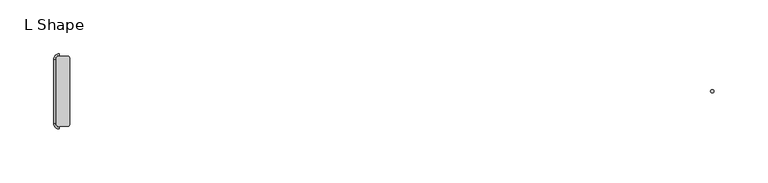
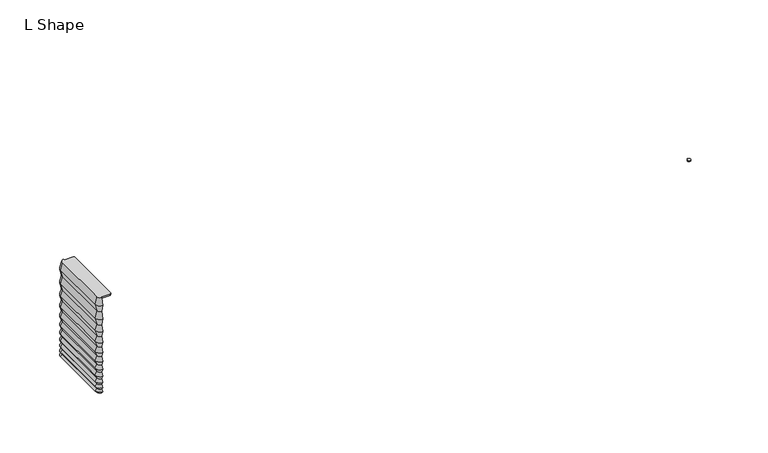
"""IFC4 building model written with IfcOpenShell, lengths in millimetres: light fixture geometry, Lighting-Ceiling-Betacalco-Bellows-L_Shape : L Shape."""

from ifc_helpers import new_model, si_unit, point, frame, frame_2d, origin, place, context, project, spatial, polyline, circle_curve, trimmed, segment, composite_curve, outline, extrude, source, transform, mapped, element, save
from ifc_brep_helpers import plane_surface, revolved_surface, advanced_brep


def l_shape_feb75dd8(model_context):
    return source(origin(), model_context, "Body", "SolidModel", [
        advanced_brep(
        [(-304.8, 35.1474913, 2.032), (-304.8, 33.3694913, 4.064), (-304.8, 35.1474913, 6.604), (-304.8, 33.3694913, 9.144), (-304.8, 35.1474913, 12.192), (-304.8, 33.3694913, 15.24), (-304.8, 35.1474913, 18.796), (-304.8, 33.3694913, 22.352), (-304.8, 35.1474913, 26.162), (-304.8, 33.3694913, 29.972), (-304.8, 35.11885, 34.4703509), (-304.8, 33.3966915, 39.0460566), (-304.8, 35.1239968, 44.1288728), (-304.8, 33.3919128, 49.2119386), (-304.8, 35.1278878, 54.802389), (-304.8, 33.3882749, 60.3929656), (-304.8, 35.1308966, 66.491104), (-304.8, 33.3848944, 72.5911894), (-304.8, 35.1351705, 79.7067168), (-304.8, 33.3815995, 86.8195673), (-304.8, 35.1359826, 94.186321), (-304.8, 33.3694913, 101.6), (-304.8, 32.6229178, 101.6), (-304.8, 32.6229178, 100.2332722), (-304.8, -32.6229178, 100.2332722), (-304.8, -32.6229178, 101.6), (-304.8, -33.3694913, 101.6), (-304.8, -35.1359826, 94.186321), (-304.8, -33.3815995, 86.8195673), (-304.8, -35.1351705, 79.7067168), (-304.8, -33.3848944, 72.5911894), (-304.8, -35.1308966, 66.491104), (-304.8, -33.3882749, 60.3929656), (-304.8, -35.1278878, 54.802389), (-304.8, -33.3919128, 49.2119386), (-304.8, -35.1239968, 44.1288728), (-304.8, -33.3966915, 39.0460566), (-304.8, -35.11885, 34.4703509), (-304.8, -33.3694913, 29.972), (-304.8, -35.1474913, 26.162), (-304.8, -33.3694913, 22.352), (-304.8, -35.1474913, 18.796), (-304.8, -33.3694913, 15.24), (-304.8, -35.1474913, 12.192), (-304.8, -33.3694913, 9.144), (-304.8, -35.1474913, 6.604), (-304.8, -33.3694913, 4.064), (-304.8, -35.1474913, 2.032), (-304.8, -33.3694913, 0.0), (-304.8, 33.3694913, 0.0), (-308.213, 29.9564913, 0.0), (-309.991, 29.9564913, 2.032), (-308.213, -29.9564913, 0.0), (-308.213, 29.9564913, 101.6), (-308.213, -29.9564913, 101.6), (-295.9807007, -32.5154703, 101.6), (-294.8222216, -31.4000598, 101.6), (-294.8222216, 31.4000598, 101.6), (-295.9807007, 32.5154703, 101.6), (-309.9794913, 29.9564913, 94.186321), (-308.2251082, 29.9564913, 86.8195673), (-309.9786792, 29.9564913, 79.7067168), (-308.2284031, 29.9564913, 72.5911894), (-309.9744054, 29.9564913, 66.491104), (-308.2317837, 29.9564913, 60.3929656), (-309.9713965, 29.9564913, 54.802389), (-308.2354215, 29.9564913, 49.2119386), (-309.9675055, 29.9564913, 44.1288728), (-308.2402002, 29.9564913, 39.0460566), (-309.9623587, 29.9564913, 34.4703509), (-308.213, 29.9564913, 29.972), (-309.991, 29.9564913, 26.162), (-308.213, 29.9564913, 22.352), (-309.991, 29.9564913, 18.796), (-308.213, 29.9564913, 15.24), (-309.991, 29.9564913, 12.192), (-308.213, 29.9564913, 9.144), (-309.991, 29.9564913, 6.604), (-308.213, 29.9564913, 4.064), (-309.991, -29.9564913, 2.032), (-309.9794913, -29.9564913, 94.186321), (-308.2251082, -29.9564913, 86.8195673), (-309.9786792, -29.9564913, 79.7067168), (-308.2284031, -29.9564913, 72.5911894), (-309.9744054, -29.9564913, 66.491104), (-308.2317837, -29.9564913, 60.3929656), (-309.9713965, -29.9564913, 54.802389), (-308.2354215, -29.9564913, 49.2119386), (-309.9675055, -29.9564913, 44.1288728), (-308.2402002, -29.9564913, 39.0460566), (-309.9623587, -29.9564913, 34.4703509), (-308.213, -29.9564913, 29.972), (-309.991, -29.9564913, 26.162), (-308.213, -29.9564913, 22.352), (-309.991, -29.9564913, 18.796), (-308.213, -29.9564913, 15.24), (-309.991, -29.9564913, 12.192), (-308.213, -29.9564913, 9.144), (-309.991, -29.9564913, 6.604), (-308.213, -29.9564913, 4.064), (-294.8222216, -31.4000598, 100.2332722), (-295.9807007, -32.5154703, 100.2332722), (-295.9807007, 32.5154703, 100.2332722), (-294.8222216, 31.4000598, 100.2332722)],
        [
            (0, 1),
            (1, 2),
            (2, 3),
            (3, 4),
            (4, 5),
            (5, 6),
            (6, 7),
            (7, 8),
            (8, 9),
            (9, 10),
            (10, 11),
            (11, 12),
            (12, 13),
            (13, 14),
            (14, 15),
            (15, 16),
            (16, 17),
            (17, 18),
            (18, 19),
            (19, 20),
            (20, 21),
            (21, 22),
            (22, 23),
            (23, 24),
            (24, 25),
            (25, 26),
            (26, 27),
            (27, 28),
            (28, 29),
            (29, 30),
            (30, 31),
            (31, 32),
            (32, 33),
            (33, 34),
            (34, 35),
            (35, 36),
            (36, 37),
            (37, 38),
            (38, 39),
            (39, 40),
            (40, 41),
            (41, 42),
            (42, 43),
            (43, 44),
            (44, 45),
            (45, 46),
            (46, 47),
            (47, 48),
            (48, 49),
            (49, 0),
            (49, 50, circle_curve(frame((-304.8, 29.9564913, 0.0), z_axis=(0.0, 0.0, 1.0), x_axis=(0.0, 1.0, 0.0)), 3.413)),
            (50, 51),
            (51, 0, circle_curve(frame((-304.8, 29.9564913, 2.032), z_axis=(0.0, 0.0, -1.0), x_axis=(0.0, 1.0, 0.0)), 5.191)),
            (48, 52, circle_curve(frame((-304.8, -29.9564913, 0.0), z_axis=(0.0, 0.0, -1.0), x_axis=(-1.0, 0.0, 0.0)), 3.413)),
            (52, 50),
            (53, 54),
            (54, 26, circle_curve(frame((-304.8, -29.9564913, 101.6), z_axis=(0.0, 0.0, 1.0), x_axis=(-1.0, 0.0, 0.0)), 3.413)),
            (25, 55),
            (55, 56),
            (56, 57),
            (57, 58),
            (58, 22),
            (21, 53, circle_curve(frame((-304.8, 29.9564913, 101.6), z_axis=(0.0, 0.0, 1.0), x_axis=(0.0, 1.0, 0.0)), 3.413)),
            (20, 59, circle_curve(frame((-304.8, 29.9564913, 94.186321), z_axis=(0.0, 0.0, 1.0), x_axis=(0.0, 1.0, 0.0)), 5.1794913)),
            (59, 53),
            (19, 60, circle_curve(frame((-304.8, 29.9564913, 86.8195673), z_axis=(0.0, 0.0, 1.0), x_axis=(0.0, 1.0, 0.0)), 3.4251082)),
            (60, 59),
            (18, 61, circle_curve(frame((-304.8, 29.9564913, 79.7067168), z_axis=(0.0, 0.0, 1.0), x_axis=(0.0, 1.0, 0.0)), 5.1786792)),
            (61, 60),
            (17, 62, circle_curve(frame((-304.8, 29.9564913, 72.5911894), z_axis=(0.0, 0.0, 1.0), x_axis=(0.0, 1.0, 0.0)), 3.4284031)),
            (62, 61),
            (16, 63, circle_curve(frame((-304.8, 29.9564913, 66.491104), z_axis=(0.0, 0.0, 1.0), x_axis=(0.0, 1.0, 0.0)), 5.1744054)),
            (63, 62),
            (15, 64, circle_curve(frame((-304.8, 29.9564913, 60.3929656), z_axis=(0.0, 0.0, 1.0), x_axis=(0.0, 1.0, 0.0)), 3.4317837)),
            (64, 63),
            (14, 65, circle_curve(frame((-304.8, 29.9564913, 54.802389), z_axis=(0.0, 0.0, 1.0), x_axis=(0.0, 1.0, 0.0)), 5.1713965)),
            (65, 64),
            (13, 66, circle_curve(frame((-304.8, 29.9564913, 49.2119386), z_axis=(0.0, 0.0, 1.0), x_axis=(0.0, 1.0, 0.0)), 3.4354215)),
            (66, 65),
            (12, 67, circle_curve(frame((-304.8, 29.9564913, 44.1288728), z_axis=(0.0, 0.0, 1.0), x_axis=(0.0, 1.0, 0.0)), 5.1675055)),
            (67, 66),
            (11, 68, circle_curve(frame((-304.8, 29.9564913, 39.0460566), z_axis=(0.0, 0.0, 1.0), x_axis=(0.0, 1.0, 0.0)), 3.4402002)),
            (68, 67),
            (10, 69, circle_curve(frame((-304.8, 29.9564913, 34.4703509), z_axis=(0.0, 0.0, 1.0), x_axis=(0.0, 1.0, 0.0)), 5.1623587)),
            (69, 68),
            (9, 70, circle_curve(frame((-304.8, 29.9564913, 29.972), z_axis=(0.0, 0.0, 1.0), x_axis=(0.0, 1.0, 0.0)), 3.413)),
            (70, 69),
            (8, 71, circle_curve(frame((-304.8, 29.9564913, 26.162), z_axis=(0.0, 0.0, 1.0), x_axis=(0.0, 1.0, 0.0)), 5.191)),
            (71, 70),
            (7, 72, circle_curve(frame((-304.8, 29.9564913, 22.352), z_axis=(0.0, 0.0, 1.0), x_axis=(0.0, 1.0, 0.0)), 3.413)),
            (72, 71),
            (6, 73, circle_curve(frame((-304.8, 29.9564913, 18.796), z_axis=(0.0, 0.0, 1.0), x_axis=(0.0, 1.0, 0.0)), 5.191)),
            (73, 72),
            (5, 74, circle_curve(frame((-304.8, 29.9564913, 15.24), z_axis=(0.0, 0.0, 1.0), x_axis=(0.0, 1.0, 0.0)), 3.413)),
            (74, 73),
            (4, 75, circle_curve(frame((-304.8, 29.9564913, 12.192), z_axis=(0.0, 0.0, 1.0), x_axis=(0.0, 1.0, 0.0)), 5.191)),
            (75, 74),
            (3, 76, circle_curve(frame((-304.8, 29.9564913, 9.144), z_axis=(0.0, 0.0, 1.0), x_axis=(0.0, 1.0, 0.0)), 3.413)),
            (76, 75),
            (2, 77, circle_curve(frame((-304.8, 29.9564913, 6.604), z_axis=(0.0, 0.0, 1.0), x_axis=(0.0, 1.0, 0.0)), 5.191)),
            (77, 76),
            (1, 78, circle_curve(frame((-304.8, 29.9564913, 4.064), z_axis=(0.0, 0.0, 1.0), x_axis=(0.0, 1.0, 0.0)), 3.413)),
            (78, 77),
            (51, 78),
            (52, 79),
            (79, 51),
            (59, 80),
            (80, 54),
            (60, 81),
            (81, 80),
            (61, 82),
            (82, 81),
            (62, 83),
            (83, 82),
            (63, 84),
            (84, 83),
            (64, 85),
            (85, 84),
            (65, 86),
            (86, 85),
            (66, 87),
            (87, 86),
            (67, 88),
            (88, 87),
            (68, 89),
            (89, 88),
            (69, 90),
            (90, 89),
            (70, 91),
            (91, 90),
            (71, 92),
            (92, 91),
            (72, 93),
            (93, 92),
            (73, 94),
            (94, 93),
            (74, 95),
            (95, 94),
            (75, 96),
            (96, 95),
            (76, 97),
            (97, 96),
            (77, 98),
            (98, 97),
            (78, 99),
            (99, 98),
            (79, 99),
            (100, 101),
            (101, 24),
            (23, 102),
            (102, 103),
            (103, 100),
            (55, 101),
            (100, 56),
            (58, 102),
            (57, 103),
            (47, 79, circle_curve(frame((-304.8, -29.9564913, 2.032), z_axis=(0.0, 0.0, -1.0), x_axis=(-1.0, 0.0, 0.0)), 5.191)),
            (80, 27, circle_curve(frame((-304.8, -29.9564913, 94.186321), z_axis=(0.0, 0.0, 1.0), x_axis=(-1.0, 0.0, 0.0)), 5.1794913)),
            (81, 28, circle_curve(frame((-304.8, -29.9564913, 86.8195673), z_axis=(0.0, 0.0, 1.0), x_axis=(-1.0, 0.0, 0.0)), 3.4251082)),
            (82, 29, circle_curve(frame((-304.8, -29.9564913, 79.7067168), z_axis=(0.0, 0.0, 1.0), x_axis=(-1.0, 0.0, 0.0)), 5.1786792)),
            (83, 30, circle_curve(frame((-304.8, -29.9564913, 72.5911894), z_axis=(0.0, 0.0, 1.0), x_axis=(-1.0, 0.0, 0.0)), 3.4284031)),
            (84, 31, circle_curve(frame((-304.8, -29.9564913, 66.491104), z_axis=(0.0, 0.0, 1.0), x_axis=(-1.0, 0.0, 0.0)), 5.1744054)),
            (85, 32, circle_curve(frame((-304.8, -29.9564913, 60.3929656), z_axis=(0.0, 0.0, 1.0), x_axis=(-1.0, 0.0, 0.0)), 3.4317837)),
            (86, 33, circle_curve(frame((-304.8, -29.9564913, 54.802389), z_axis=(0.0, 0.0, 1.0), x_axis=(-1.0, 0.0, 0.0)), 5.1713965)),
            (87, 34, circle_curve(frame((-304.8, -29.9564913, 49.2119386), z_axis=(0.0, 0.0, 1.0), x_axis=(-1.0, 0.0, 0.0)), 3.4354215)),
            (88, 35, circle_curve(frame((-304.8, -29.9564913, 44.1288728), z_axis=(0.0, 0.0, 1.0), x_axis=(-1.0, 0.0, 0.0)), 5.1675055)),
            (89, 36, circle_curve(frame((-304.8, -29.9564913, 39.0460566), z_axis=(0.0, 0.0, 1.0), x_axis=(-1.0, 0.0, 0.0)), 3.4402002)),
            (90, 37, circle_curve(frame((-304.8, -29.9564913, 34.4703509), z_axis=(0.0, 0.0, 1.0), x_axis=(-1.0, 0.0, 0.0)), 5.1623587)),
            (91, 38, circle_curve(frame((-304.8, -29.9564913, 29.972), z_axis=(0.0, 0.0, 1.0), x_axis=(-1.0, 0.0, 0.0)), 3.413)),
            (92, 39, circle_curve(frame((-304.8, -29.9564913, 26.162), z_axis=(0.0, 0.0, 1.0), x_axis=(-1.0, 0.0, 0.0)), 5.191)),
            (93, 40, circle_curve(frame((-304.8, -29.9564913, 22.352), z_axis=(0.0, 0.0, 1.0), x_axis=(-1.0, 0.0, 0.0)), 3.413)),
            (94, 41, circle_curve(frame((-304.8, -29.9564913, 18.796), z_axis=(0.0, 0.0, 1.0), x_axis=(-1.0, 0.0, 0.0)), 5.191)),
            (95, 42, circle_curve(frame((-304.8, -29.9564913, 15.24), z_axis=(0.0, 0.0, 1.0), x_axis=(-1.0, 0.0, 0.0)), 3.413)),
            (96, 43, circle_curve(frame((-304.8, -29.9564913, 12.192), z_axis=(0.0, 0.0, 1.0), x_axis=(-1.0, 0.0, 0.0)), 5.191)),
            (97, 44, circle_curve(frame((-304.8, -29.9564913, 9.144), z_axis=(0.0, 0.0, 1.0), x_axis=(-1.0, 0.0, 0.0)), 3.413)),
            (98, 45, circle_curve(frame((-304.8, -29.9564913, 6.604), z_axis=(0.0, 0.0, 1.0), x_axis=(-1.0, 0.0, 0.0)), 5.191)),
            (99, 46, circle_curve(frame((-304.8, -29.9564913, 4.064), z_axis=(0.0, 0.0, 1.0), x_axis=(-1.0, 0.0, 0.0)), 3.413)),
        ],
        [
            plane_surface(frame((-304.8, 35.3935941, 0.0), z_axis=(1.0, 0.0, 0.0), x_axis=(0.0, 0.0, 1.0))),
            revolved_surface(polyline([(-304.8, 35.1474913, 2.032), (-304.8, 33.3694913, 0.0)]), (-304.8, 29.9564913, 0.0), (0.0, 0.0, -1.0)),
            plane_surface(frame((-304.8, 29.9564913, 0.0), z_axis=(0.0, 0.0, -1.0), x_axis=(0.0, 1.0, 0.0))),
            plane_surface(frame((-304.8, 29.9564913, 101.6), z_axis=(0.0, 0.0, 1.0), x_axis=(0.0, 1.0, 0.0))),
            revolved_surface(polyline([(-304.8, 33.3694913, 101.6), (-304.8, 35.1359826, 94.186321)]), (-304.8, 29.9564913, 0.0), (0.0, 0.0, -1.0)),
            revolved_surface(polyline([(-304.8, 35.1359826, 94.186321), (-304.8, 33.3815995, 86.8195673)]), (-304.8, 29.9564913, 0.0), (0.0, 0.0, -1.0)),
            revolved_surface(polyline([(-304.8, 33.3815995, 86.8195673), (-304.8, 35.1351705, 79.7067168)]), (-304.8, 29.9564913, 0.0), (0.0, 0.0, -1.0)),
            revolved_surface(polyline([(-304.8, 35.1351705, 79.7067168), (-304.8, 33.3848944, 72.5911894)]), (-304.8, 29.9564913, 0.0), (0.0, 0.0, -1.0)),
            revolved_surface(polyline([(-304.8, 33.3848944, 72.5911894), (-304.8, 35.1308966, 66.491104)]), (-304.8, 29.9564913, 0.0), (0.0, 0.0, -1.0)),
            revolved_surface(polyline([(-304.8, 35.1308966, 66.491104), (-304.8, 33.3882749, 60.3929656)]), (-304.8, 29.9564913, 0.0), (0.0, 0.0, -1.0)),
            revolved_surface(polyline([(-304.8, 33.3882749, 60.3929656), (-304.8, 35.1278878, 54.802389)]), (-304.8, 29.9564913, 0.0), (0.0, 0.0, -1.0)),
            revolved_surface(polyline([(-304.8, 35.1278878, 54.802389), (-304.8, 33.3919128, 49.2119386)]), (-304.8, 29.9564913, 0.0), (0.0, 0.0, -1.0)),
            revolved_surface(polyline([(-304.8, 33.3919128, 49.2119386), (-304.8, 35.1239968, 44.1288728)]), (-304.8, 29.9564913, 0.0), (0.0, 0.0, -1.0)),
            revolved_surface(polyline([(-304.8, 35.1239968, 44.1288728), (-304.8, 33.3966915, 39.0460566)]), (-304.8, 29.9564913, 0.0), (0.0, 0.0, -1.0)),
            revolved_surface(polyline([(-304.8, 33.3966915, 39.0460566), (-304.8, 35.11885, 34.4703509)]), (-304.8, 29.9564913, 0.0), (0.0, 0.0, -1.0)),
            revolved_surface(polyline([(-304.8, 35.11885, 34.4703509), (-304.8, 33.3694913, 29.972)]), (-304.8, 29.9564913, 0.0), (0.0, 0.0, -1.0)),
            revolved_surface(polyline([(-304.8, 33.3694913, 29.972), (-304.8, 35.1474913, 26.162)]), (-304.8, 29.9564913, 0.0), (0.0, 0.0, -1.0)),
            revolved_surface(polyline([(-304.8, 35.1474913, 26.162), (-304.8, 33.3694913, 22.352)]), (-304.8, 29.9564913, 0.0), (0.0, 0.0, -1.0)),
            revolved_surface(polyline([(-304.8, 33.3694913, 22.352), (-304.8, 35.1474913, 18.796)]), (-304.8, 29.9564913, 0.0), (0.0, 0.0, -1.0)),
            revolved_surface(polyline([(-304.8, 35.1474913, 18.796), (-304.8, 33.3694913, 15.24)]), (-304.8, 29.9564913, 0.0), (0.0, 0.0, -1.0)),
            revolved_surface(polyline([(-304.8, 33.3694913, 15.24), (-304.8, 35.1474913, 12.192)]), (-304.8, 29.9564913, 0.0), (0.0, 0.0, -1.0)),
            revolved_surface(polyline([(-304.8, 35.1474913, 12.192), (-304.8, 33.3694913, 9.144)]), (-304.8, 29.9564913, 0.0), (0.0, 0.0, -1.0)),
            revolved_surface(polyline([(-304.8, 33.3694913, 9.144), (-304.8, 35.1474913, 6.604)]), (-304.8, 29.9564913, 0.0), (0.0, 0.0, -1.0)),
            revolved_surface(polyline([(-304.8, 35.1474913, 6.604), (-304.8, 33.3694913, 4.064)]), (-304.8, 29.9564913, 0.0), (0.0, 0.0, -1.0)),
            revolved_surface(polyline([(-304.8, 33.3694913, 4.064), (-304.8, 35.1474913, 2.032)]), (-304.8, 29.9564913, 0.0), (0.0, 0.0, -1.0)),
            plane_surface(frame((-309.991, 29.9564913, 2.032), z_axis=(-0.7525766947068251, 0.0, -0.6585046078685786), x_axis=(0.0, -1.0, 0.0))),
            plane_surface(frame((-308.213, 29.9564913, 101.6), z_axis=(-0.9727668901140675, 0.0, 0.23178562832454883), x_axis=(0.0, -1.0, 0.0))),
            plane_surface(frame((-309.9794913, 29.9564913, 94.186321), z_axis=(-0.9727944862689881, 0.0, -0.23166978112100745), x_axis=(0.0, -1.0, 0.0))),
            plane_surface(frame((-308.2251082, 29.9564913, 86.8195673), z_axis=(-0.9709287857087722, 0.0, 0.23936852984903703), x_axis=(0.0, -1.0, 0.0))),
            plane_surface(frame((-309.9786792, 29.9564913, 79.7067168), z_axis=(-0.9710540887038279, 0.0, -0.23885970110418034), x_axis=(0.0, -1.0, 0.0))),
            plane_surface(frame((-308.2284031, 29.9564913, 72.5911894), z_axis=(-0.9613939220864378, 0.0, 0.27517581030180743), x_axis=(0.0, -1.0, 0.0))),
            plane_surface(frame((-309.9744054, 29.9564913, 66.491104), z_axis=(-0.9615116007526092, 0.0, -0.2747643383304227), x_axis=(0.0, -1.0, 0.0))),
            plane_surface(frame((-308.2317837, 29.9564913, 60.3929656), z_axis=(-0.9548411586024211, 0.0, 0.29711674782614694), x_axis=(0.0, -1.0, 0.0))),
            plane_surface(frame((-309.9713965, 29.9564913, 54.802389), z_axis=(-0.9550153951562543, 0.0, -0.29655622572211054), x_axis=(0.0, -1.0, 0.0))),
            plane_surface(frame((-308.2354215, 29.9564913, 49.2119386), z_axis=(-0.9465545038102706, 0.0, 0.3225439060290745), x_axis=(0.0, -1.0, 0.0))),
            plane_surface(frame((-309.9675055, 29.9564913, 44.1288728), z_axis=(-0.9468211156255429, 0.0, -0.3217604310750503), x_axis=(0.0, -1.0, 0.0))),
            plane_surface(frame((-308.2402002, 29.9564913, 39.0460566), z_axis=(-0.9359069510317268, 0.0, 0.3522473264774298), x_axis=(0.0, -1.0, 0.0))),
            plane_surface(frame((-309.9623587, 29.9564913, 34.4703509), z_axis=(-0.9320046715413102, 0.0, -0.36244626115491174), x_axis=(0.0, -1.0, 0.0))),
            plane_surface(frame((-308.213, 29.9564913, 29.972), z_axis=(-0.9061831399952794, 0.0, 0.42288546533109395), x_axis=(0.0, -1.0, 0.0))),
            plane_surface(frame((-309.991, 29.9564913, 26.162), z_axis=(-0.9061831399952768, 0.0, -0.42288546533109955), x_axis=(0.0, -1.0, 0.0))),
            plane_surface(frame((-308.213, 29.9564913, 22.352), z_axis=(-0.8944271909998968, 0.0, 0.4472135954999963), x_axis=(0.0, -1.0, 0.0))),
            plane_surface(frame((-309.991, 29.9564913, 18.796), z_axis=(-0.8944271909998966, 0.0, -0.44721359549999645), x_axis=(0.0, -1.0, 0.0))),
            plane_surface(frame((-308.213, 29.9564913, 15.24), z_axis=(-0.8637789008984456, 0.0, 0.5038710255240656), x_axis=(0.0, -1.0, 0.0))),
            plane_surface(frame((-309.991, 29.9564913, 12.192), z_axis=(-0.8637789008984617, 0.0, -0.503871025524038), x_axis=(0.0, -1.0, 0.0))),
            plane_surface(frame((-308.213, 29.9564913, 9.144), z_axis=(-0.8192319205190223, 0.0, 0.5734623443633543), x_axis=(0.0, -1.0, 0.0))),
            plane_surface(frame((-309.991, 29.9564913, 6.604), z_axis=(-0.8192319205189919, 0.0, -0.5734623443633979), x_axis=(0.0, -1.0, 0.0))),
            plane_surface(frame((-308.213, 29.9564913, 4.064), z_axis=(-0.7525766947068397, 0.0, 0.6585046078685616), x_axis=(0.0, -1.0, 0.0))),
            plane_surface(frame((-294.8222216, -31.4000598, 100.2332722), z_axis=(0.0, 0.0, -1.0), x_axis=(0.7203705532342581, 0.6935894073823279, 0.0))),
            plane_surface(frame((-294.8222216, -31.4000598, 101.6), z_axis=(0.6935894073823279, -0.7203705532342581, 0.0), x_axis=(0.0, 0.0, -1.0))),
            plane_surface(frame((-295.9807007, -32.5154703, 101.6), z_axis=(0.012182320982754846, -0.9999257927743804, 0.0), x_axis=(0.0, 0.0, -1.0))),
            plane_surface(frame((-304.8, 32.6229178, 101.6), z_axis=(0.012182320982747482, 0.9999257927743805, 0.0), x_axis=(0.0, 0.0, -1.0))),
            plane_surface(frame((-295.9807007, 32.5154703, 101.6), z_axis=(0.6935894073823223, 0.7203705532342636, 0.0), x_axis=(0.0, 0.0, -1.0))),
            plane_surface(frame((-294.8222216, 31.4000598, 101.6), z_axis=(1.0, 0.0, 0.0), x_axis=(0.0, 0.0, -1.0))),
            revolved_surface(polyline([(-309.991, -29.9564913, 2.032), (-308.213, -29.9564913, 0.0)]), (-304.8, -29.9564913, 0.0), (0.0, 0.0, -1.0)),
            revolved_surface(polyline([(-308.213, -29.9564913, 101.6), (-309.9794913, -29.9564913, 94.186321)]), (-304.8, -29.9564913, 0.0), (0.0, 0.0, -1.0)),
            revolved_surface(polyline([(-309.9794913, -29.9564913, 94.186321), (-308.2251082, -29.9564913, 86.8195673)]), (-304.8, -29.9564913, 0.0), (0.0, 0.0, -1.0)),
            revolved_surface(polyline([(-308.2251082, -29.9564913, 86.8195673), (-309.9786792, -29.9564913, 79.7067168)]), (-304.8, -29.9564913, 0.0), (0.0, 0.0, -1.0)),
            revolved_surface(polyline([(-309.9786792, -29.9564913, 79.7067168), (-308.2284031, -29.9564913, 72.5911894)]), (-304.8, -29.9564913, 0.0), (0.0, 0.0, -1.0)),
            revolved_surface(polyline([(-308.2284031, -29.9564913, 72.5911894), (-309.9744054, -29.9564913, 66.491104)]), (-304.8, -29.9564913, 0.0), (0.0, 0.0, -1.0)),
            revolved_surface(polyline([(-309.9744054, -29.9564913, 66.491104), (-308.2317837, -29.9564913, 60.3929656)]), (-304.8, -29.9564913, 0.0), (0.0, 0.0, -1.0)),
            revolved_surface(polyline([(-308.2317837, -29.9564913, 60.3929656), (-309.9713965, -29.9564913, 54.802389)]), (-304.8, -29.9564913, 0.0), (0.0, 0.0, -1.0)),
            revolved_surface(polyline([(-309.9713965, -29.9564913, 54.802389), (-308.2354215, -29.9564913, 49.2119386)]), (-304.8, -29.9564913, 0.0), (0.0, 0.0, -1.0)),
            revolved_surface(polyline([(-308.2354215, -29.9564913, 49.2119386), (-309.9675055, -29.9564913, 44.1288728)]), (-304.8, -29.9564913, 0.0), (0.0, 0.0, -1.0)),
            revolved_surface(polyline([(-309.9675055, -29.9564913, 44.1288728), (-308.2402002, -29.9564913, 39.0460566)]), (-304.8, -29.9564913, 0.0), (0.0, 0.0, -1.0)),
            revolved_surface(polyline([(-308.2402002, -29.9564913, 39.0460566), (-309.9623587, -29.9564913, 34.4703509)]), (-304.8, -29.9564913, 0.0), (0.0, 0.0, -1.0)),
            revolved_surface(polyline([(-309.9623587, -29.9564913, 34.4703509), (-308.213, -29.9564913, 29.972)]), (-304.8, -29.9564913, 0.0), (0.0, 0.0, -1.0)),
            revolved_surface(polyline([(-308.213, -29.9564913, 29.972), (-309.991, -29.9564913, 26.162)]), (-304.8, -29.9564913, 0.0), (0.0, 0.0, -1.0)),
            revolved_surface(polyline([(-309.991, -29.9564913, 26.162), (-308.213, -29.9564913, 22.352)]), (-304.8, -29.9564913, 0.0), (0.0, 0.0, -1.0)),
            revolved_surface(polyline([(-308.213, -29.9564913, 22.352), (-309.991, -29.9564913, 18.796)]), (-304.8, -29.9564913, 0.0), (0.0, 0.0, -1.0)),
            revolved_surface(polyline([(-309.991, -29.9564913, 18.796), (-308.213, -29.9564913, 15.24)]), (-304.8, -29.9564913, 0.0), (0.0, 0.0, -1.0)),
            revolved_surface(polyline([(-308.213, -29.9564913, 15.24), (-309.991, -29.9564913, 12.192)]), (-304.8, -29.9564913, 0.0), (0.0, 0.0, -1.0)),
            revolved_surface(polyline([(-309.991, -29.9564913, 12.192), (-308.213, -29.9564913, 9.144)]), (-304.8, -29.9564913, 0.0), (0.0, 0.0, -1.0)),
            revolved_surface(polyline([(-308.213, -29.9564913, 9.144), (-309.991, -29.9564913, 6.604)]), (-304.8, -29.9564913, 0.0), (0.0, 0.0, -1.0)),
            revolved_surface(polyline([(-309.991, -29.9564913, 6.604), (-308.213, -29.9564913, 4.064)]), (-304.8, -29.9564913, 0.0), (0.0, 0.0, -1.0)),
            revolved_surface(polyline([(-308.213, -29.9564913, 4.064), (-309.991, -29.9564913, 2.032)]), (-304.8, -29.9564913, 0.0), (0.0, 0.0, -1.0)),
        ],
        [
            (0, [[1, 2, 3, 4, 5, 6, 7, 8, 9, 10, 11, 12, 13, 14, 15, 16, 17, 18, 19, 20, 21, 22, 23, 24, 25, 26, 27, 28, 29, 30, 31, 32, 33, 34, 35, 36, 37, 38, 39, 40, 41, 42, 43, 44, 45, 46, 47, 48, 49, 50]]),
            (1, [[51, 52, 53, -50]]),
            (2, [[54, 55, -51, -49]]),
            (3, [[56, 57, -26, 58, 59, 60, 61, 62, -22, 63]]),
            (4, [[64, 65, -63, -21]]),
            (5, [[66, 67, -64, -20]]),
            (6, [[68, 69, -66, -19]]),
            (7, [[70, 71, -68, -18]]),
            (8, [[72, 73, -70, -17]]),
            (9, [[74, 75, -72, -16]]),
            (10, [[76, 77, -74, -15]]),
            (11, [[78, 79, -76, -14]]),
            (12, [[80, 81, -78, -13]]),
            (13, [[82, 83, -80, -12]]),
            (14, [[84, 85, -82, -11]]),
            (15, [[86, 87, -84, -10]]),
            (16, [[88, 89, -86, -9]]),
            (17, [[90, 91, -88, -8]]),
            (18, [[92, 93, -90, -7]]),
            (19, [[94, 95, -92, -6]]),
            (20, [[96, 97, -94, -5]]),
            (21, [[98, 99, -96, -4]]),
            (22, [[100, 101, -98, -3]]),
            (23, [[102, 103, -100, -2]]),
            (24, [[-53, 104, -102, -1]]),
            (25, [[-55, 105, 106, -52]]),
            (26, [[-65, 107, 108, -56]]),
            (27, [[109, 110, -107, -67]]),
            (28, [[111, 112, -109, -69]]),
            (29, [[113, 114, -111, -71]]),
            (30, [[115, 116, -113, -73]]),
            (31, [[117, 118, -115, -75]]),
            (32, [[119, 120, -117, -77]]),
            (33, [[121, 122, -119, -79]]),
            (34, [[123, 124, -121, -81]]),
            (35, [[125, 126, -123, -83]]),
            (36, [[127, 128, -125, -85]]),
            (37, [[129, 130, -127, -87]]),
            (38, [[131, 132, -129, -89]]),
            (39, [[133, 134, -131, -91]]),
            (40, [[135, 136, -133, -93]]),
            (41, [[137, 138, -135, -95]]),
            (42, [[139, 140, -137, -97]]),
            (43, [[141, 142, -139, -99]]),
            (44, [[143, 144, -141, -101]]),
            (45, [[145, 146, -143, -103]]),
            (46, [[-106, 147, -145, -104]]),
            (47, [[148, 149, -24, 150, 151, 152]]),
            (48, [[153, -148, 154, -59]]),
            (49, [[-25, -149, -153, -58]]),
            (50, [[155, -150, -23, -62]]),
            (51, [[156, -151, -155, -61]]),
            (52, [[-154, -152, -156, -60]]),
            (53, [[-48, 157, -105, -54]]),
            (54, [[-108, 158, -27, -57]]),
            (55, [[159, -28, -158, -110]]),
            (56, [[160, -29, -159, -112]]),
            (57, [[161, -30, -160, -114]]),
            (58, [[162, -31, -161, -116]]),
            (59, [[163, -32, -162, -118]]),
            (60, [[164, -33, -163, -120]]),
            (61, [[165, -34, -164, -122]]),
            (62, [[166, -35, -165, -124]]),
            (63, [[167, -36, -166, -126]]),
            (64, [[168, -37, -167, -128]]),
            (65, [[169, -38, -168, -130]]),
            (66, [[170, -39, -169, -132]]),
            (67, [[171, -40, -170, -134]]),
            (68, [[172, -41, -171, -136]]),
            (69, [[173, -42, -172, -138]]),
            (70, [[174, -43, -173, -140]]),
            (71, [[175, -44, -174, -142]]),
            (72, [[176, -45, -175, -144]]),
            (73, [[177, -46, -176, -146]]),
            (74, [[-157, -47, -177, -147]]),
        ],
    ),
        extrude(outline(composite_curve([segment(trimmed(circle_curve(frame_2d((304.8, 0.0)), 1.5875), [point((303.2125, 0.0))], [point((306.3875, 0.0))], False, "CARTESIAN"), True, "CONTINUOUS"), segment(trimmed(circle_curve(frame_2d((304.8, 0.0)), 1.5875), [point((306.3875, 0.0))], [point((303.2125, 0.0))], False, "CARTESIAN"), True, "CONTINUOUS")], self_intersect=False)), frame((0.0, 0.0, 13.5891701), z_axis=(0.0, 0.0, 1.0), x_axis=(1.0, 0.0, 0.0)), (0.0, 0.0, 1.0), 1.2441624),
    ])


if __name__ == "__main__":
    model = new_model("IFC4")
    model_context = context("Model", 3, world=origin())
    ifc_project = project(units=[si_unit("LENGTHUNIT", "METRE", prefix="MILLI")], contexts=[model_context])
    site = spatial("IfcSite", under=ifc_project)
    building = spatial("IfcBuilding", under=site)
    placement = place(None, origin())
    l_shape_shape = l_shape_feb75dd8(model_context)
    element("IfcLightFixture", 1, ObjectType="Lighting-Ceiling-Betacalco-Bellows-L_Shape : L Shape", at=placement, inside=building, context=model_context, shape_type="MappedRepresentation", body=[
        mapped(l_shape_shape, transform((0.0, 0.0, 0.0), x_axis=(1.0, 0.0, 0.0), y_axis=(0.0, 1.0, 0.0), z_axis=(0.0, 0.0, 1.0))),
    ])
    save(model, "model.ifc")
